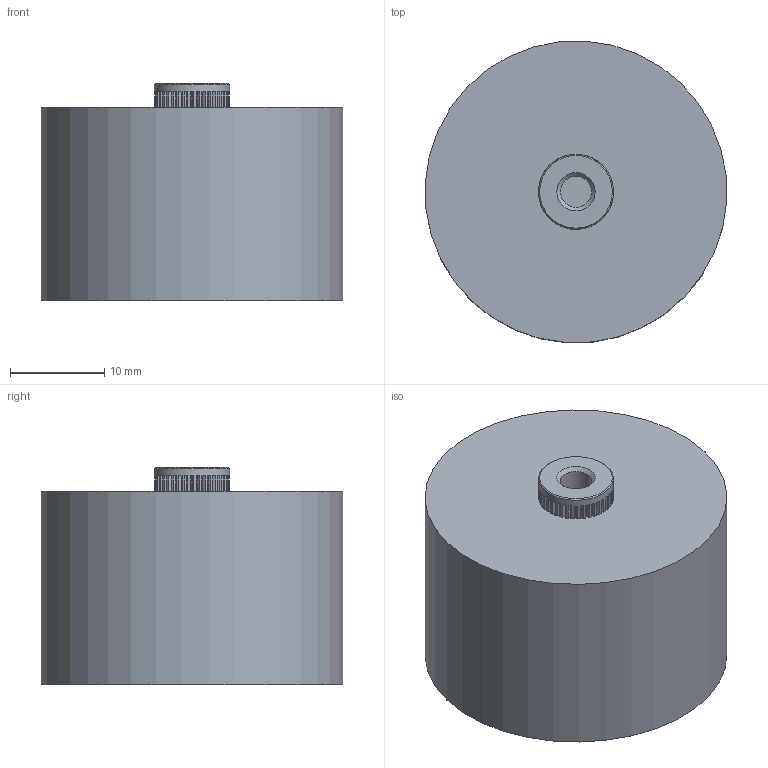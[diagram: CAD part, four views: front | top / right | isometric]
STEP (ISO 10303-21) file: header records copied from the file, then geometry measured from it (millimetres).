
FILE_DESCRIPTION((''),'2;1');
FILE_NAME('I:\Marketing\M6t1\M6T1 - Internal\Drawings\Werk 3\Finished product\Ceramite\Upload for homepage\715\715C###KT###\715C20KTD10.stp','2013-06-10T14:23:03',('sherden'),(''),'Autodesk Inventor 2013','Autodesk Inventor 2013','');
FILE_SCHEMA(('AUTOMOTIVE_DESIGN { 1 2 10303 214 0 1 1 1 }'));
Length unit declared in the file: millimetre
Products named in the file (1): 715C20KTD10
Bounding box: 31.93 x 31.93 x 23 mm (x, y, z)
Volume: 16486.2 mm3; surface area: 4017.9 mm2
Topology: 1 solids, 41 shells, 573 faces, 1419 edges, 932 vertices
Faces by surface type: plane 486, cylinder 84, cone 3
Full cylindrical faces by diameter (mm): 3.302 x2, 7.95 x1, 32 x1
Entity records: 17304 total; most frequent: CARTESIAN_POINT 2916, ORIENTED_EDGE 2822, DIRECTION 2810, EDGE_CURVE 1411, VECTOR 1160, LINE 1160, VERTEX_POINT 931, AXIS2_PLACEMENT_3D 825
